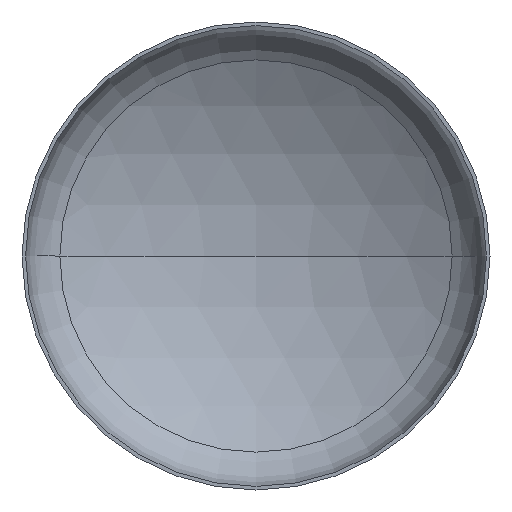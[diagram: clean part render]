
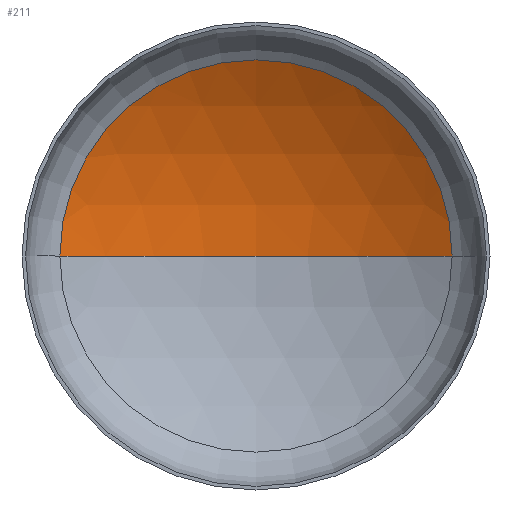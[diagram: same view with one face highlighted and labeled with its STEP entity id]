
A CAD part, front view. The second image highlights one B-rep face of the part: STEP entity #211.
In plain terms, the highlighted spherical face has radius 3200 mm.
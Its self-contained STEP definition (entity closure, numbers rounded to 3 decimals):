
#10 = ORIENTED_EDGE ( 'NONE', *, *, #139, .T. ) ;
#11 = DIRECTION ( 'NONE',  ( 0., 0., 1. ) ) ;
#13 = CARTESIAN_POINT ( 'NONE',  ( 0., -2102.024, 0. ) ) ;
#15 = EDGE_LOOP ( 'NONE', ( #54, #10, #46 ) ) ;
#46 = ORIENTED_EDGE ( 'NONE', *, *, #136, .T. ) ;
#50 = AXIS2_PLACEMENT_3D ( 'NONE', #234, #181, #60 ) ;
#54 = ORIENTED_EDGE ( 'NONE', *, *, #146, .F. ) ;
#60 = DIRECTION ( 'NONE',  ( -1., 0., 0. ) ) ;
#77 = AXIS2_PLACEMENT_3D ( 'NONE', #13, #11, #327 ) ;
#88 = AXIS2_PLACEMENT_3D ( 'NONE', #196, #198, #199 ) ;
#90 = AXIS2_PLACEMENT_3D ( 'NONE', #218, #220, #213 ) ;
#91 = VERTEX_POINT ( 'NONE', #243 ) ;
#99 = VERTEX_POINT ( 'NONE', #240 ) ;
#104 = VERTEX_POINT ( 'NONE', #227 ) ;
#136 = EDGE_CURVE ( 'NONE', #91, #99, #401, .T. ) ;
#139 = EDGE_CURVE ( 'NONE', #104, #91, #342, .T. ) ;
#146 = EDGE_CURVE ( 'NONE', #104, #99, #283, .T. ) ;
#181 = DIRECTION ( 'NONE',  ( 0., 0., -1. ) ) ;
#196 = CARTESIAN_POINT ( 'NONE',  ( 0., -2102.024, 0. ) ) ;
#198 = DIRECTION ( 'NONE',  ( 0., 0., -1. ) ) ;
#199 = DIRECTION ( 'NONE',  ( -1., 0., 0. ) ) ;
#211 = ADVANCED_FACE ( 'NONE', ( #321 ), #272, .F. ) ;
#213 = DIRECTION ( 'NONE',  ( 1., 0., 0. ) ) ;
#218 = CARTESIAN_POINT ( 'NONE',  ( 0., 623.886, 0. ) ) ;
#220 = DIRECTION ( 'NONE',  ( 0., -1., 0. ) ) ;
#227 = CARTESIAN_POINT ( 'NONE',  ( 0., 1097.976, 0. ) ) ;
#234 = CARTESIAN_POINT ( 'NONE',  ( 0., -2102.024, 0. ) ) ;
#240 = CARTESIAN_POINT ( 'NONE',  ( -1676.132, 623.886, 0. ) ) ;
#243 = CARTESIAN_POINT ( 'NONE',  ( 1676.132, 623.886, 0. ) ) ;
#272 = SPHERICAL_SURFACE ( 'NONE', #50, 3200. ) ;
#283 = CIRCLE ( 'NONE', #77, 3200. ) ;
#321 = FACE_OUTER_BOUND ( 'NONE', #15, .T. ) ;
#327 = DIRECTION ( 'NONE',  ( 1., 0., 0. ) ) ;
#342 = CIRCLE ( 'NONE', #88, 3200. ) ;
#401 = CIRCLE ( 'NONE', #90, 1676.132 ) ;
